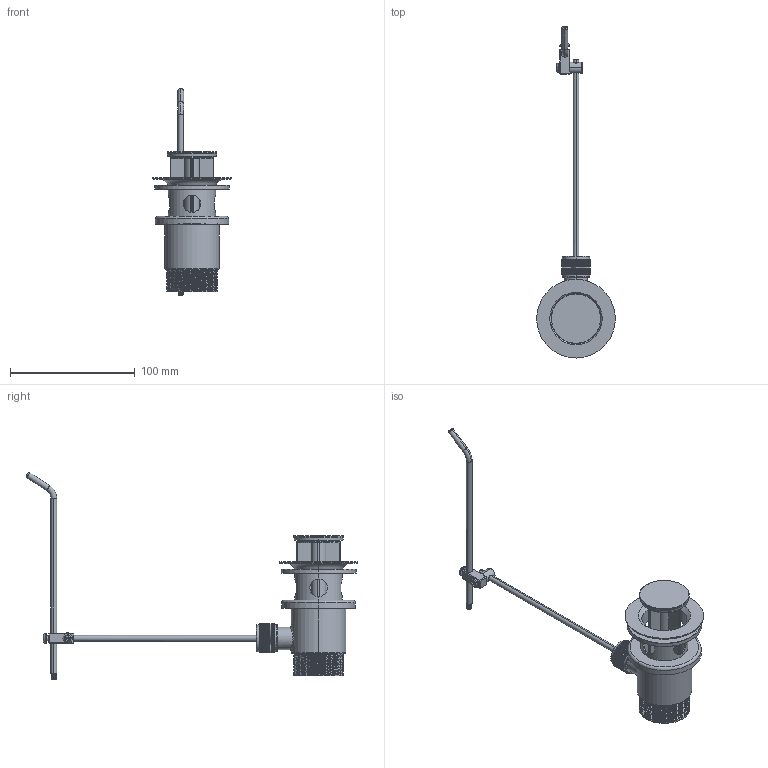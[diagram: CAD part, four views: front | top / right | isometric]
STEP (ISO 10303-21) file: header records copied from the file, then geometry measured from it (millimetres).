
FILE_DESCRIPTION (( 'STEP AP203' ), '1' );
FILE_NAME ('DRA17.STEP', '2024-03-19T09:03:22', ( '' ), ( '' ), 'SwSTEP 2.0', 'SolidWorks 2023', '' );
FILE_SCHEMA (( 'CONFIG_CONTROL_DESIGN' ));
Length unit declared in the file: millimetre
Products named in the file (1): DRA17
Bounding box: 63 x 265.8 x 165.87 mm (x, y, z)
Volume: 77081.9 mm3; surface area: 51974 mm2
Topology: 4 solids, 4 shells, 546 faces, 1469 edges, 949 vertices
Faces by surface type: plane 284, cylinder 205, torus 22, bspline 21, cone 14
Entity records: 21924 total; most frequent: CARTESIAN_POINT 8337, ORIENTED_EDGE 2938, DIRECTION 2730, EDGE_CURVE 1469, VERTEX_POINT 949, AXIS2_PLACEMENT_3D 914, LINE 902, VECTOR 902
